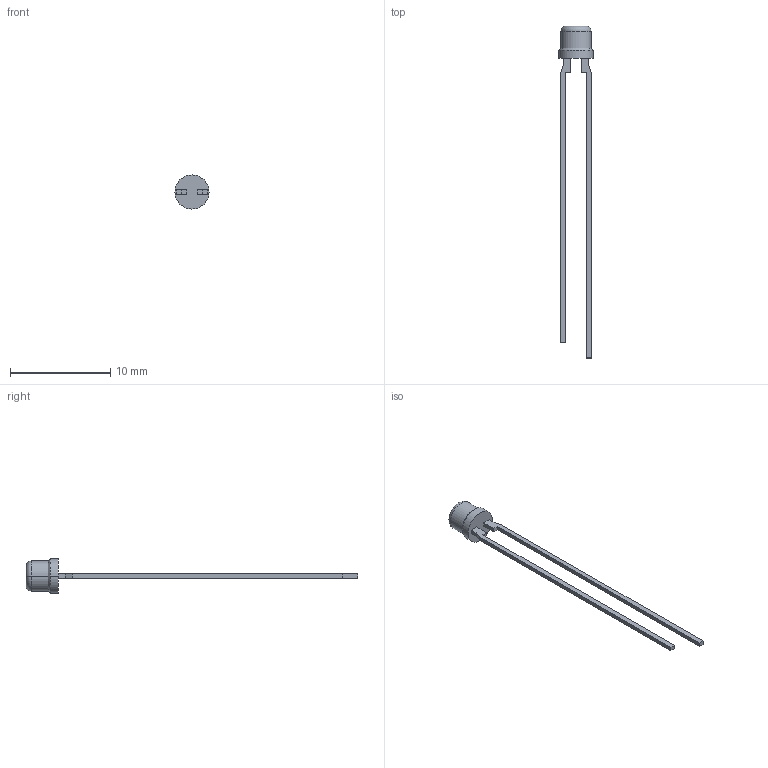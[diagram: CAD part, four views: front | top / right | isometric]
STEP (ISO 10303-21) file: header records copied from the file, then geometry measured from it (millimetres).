
FILE_DESCRIPTION (( 'STEP AP203' ), '1' );
FILE_NAME ('TLVD4200.STEP', '2017-03-06T10:09:48', ( 'LiteON Corp.' ), ( 'LiteON Corp.' ), 'SwSTEP 2.0', 'SolidWorks 2014', '' );
FILE_SCHEMA (( 'CONFIG_CONTROL_DESIGN' ));
Length unit declared in the file: millimetre
Products named in the file (1): TLVD4200
Bounding box: 3.4 x 33.08 x 3.4 mm (x, y, z)
Volume: 35.5 mm3; surface area: 153.6 mm2
Topology: 1 solids, 1 shells, 30 faces, 70 edges, 45 vertices
Faces by surface type: plane 20, cylinder 4, sphere 2, torus 2, cone 2
Entity records: 927 total; most frequent: DIRECTION 148, CARTESIAN_POINT 146, ORIENTED_EDGE 140, EDGE_CURVE 70, VECTOR 54, LINE 54, AXIS2_PLACEMENT_3D 47, VERTEX_POINT 45
